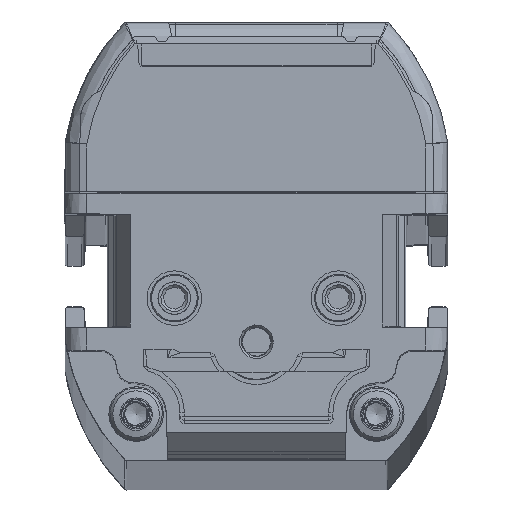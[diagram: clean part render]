
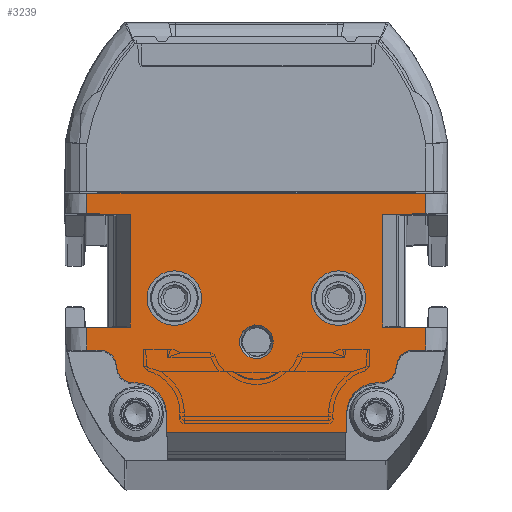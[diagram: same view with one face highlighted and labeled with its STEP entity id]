
A CAD part, top view. The second image highlights one B-rep face of the part: STEP entity #3239.
In plain terms, the highlighted planar face has unit normal (0, 0, 1).
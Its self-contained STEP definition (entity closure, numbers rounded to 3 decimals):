
#1178=FACE_BOUND('',#5343,.T.);
#1179=FACE_BOUND('',#5344,.T.);
#1180=FACE_BOUND('',#5345,.T.);
#1181=FACE_BOUND('',#5346,.T.);
#1900=CIRCLE('',#17502,2.5);
#1901=CIRCLE('',#17504,2.5);
#1902=CIRCLE('',#17506,1.55);
#1905=CIRCLE('',#17576,1.5);
#1906=CIRCLE('',#17577,1.5);
#1907=CIRCLE('',#17578,1.5);
#1908=CIRCLE('',#17579,1.5);
#1909=CIRCLE('',#17580,2.75);
#1910=CIRCLE('',#17581,2.75);
#3239=ADVANCED_FACE('',(#1178,#1179,#1180,#1181),#3754,.T.);
#3754=PLANE('',#17582);
#5343=EDGE_LOOP('',(#9281));
#5344=EDGE_LOOP('',(#9282));
#5345=EDGE_LOOP('',(#9283));
#5346=EDGE_LOOP('',(#9284,#9285,#9286,#9287,#9288,#9289,#9290,#9291,#9292,
#9293,#9294,#9295,#9296,#9297,#9298,#9299,#9300,#9301,#9302,#9303,#9304,
#9305,#9306,#9307,#9308,#9309));
#9281=ORIENTED_EDGE('',*,*,#13579,.T.);
#9282=ORIENTED_EDGE('',*,*,#13578,.F.);
#9283=ORIENTED_EDGE('',*,*,#13577,.F.);
#9284=ORIENTED_EDGE('',*,*,#13699,.F.);
#9285=ORIENTED_EDGE('',*,*,#13700,.T.);
#9286=ORIENTED_EDGE('',*,*,#13701,.T.);
#9287=ORIENTED_EDGE('',*,*,#13702,.T.);
#9288=ORIENTED_EDGE('',*,*,#13630,.T.);
#9289=ORIENTED_EDGE('',*,*,#13576,.T.);
#9290=ORIENTED_EDGE('',*,*,#13573,.T.);
#9291=ORIENTED_EDGE('',*,*,#13572,.T.);
#9292=ORIENTED_EDGE('',*,*,#13698,.T.);
#9293=ORIENTED_EDGE('',*,*,#13703,.F.);
#9294=ORIENTED_EDGE('',*,*,#13704,.F.);
#9295=ORIENTED_EDGE('',*,*,#13705,.F.);
#9296=ORIENTED_EDGE('',*,*,#13692,.T.);
#9297=ORIENTED_EDGE('',*,*,#13568,.F.);
#9298=ORIENTED_EDGE('',*,*,#13564,.T.);
#9299=ORIENTED_EDGE('',*,*,#13563,.F.);
#9300=ORIENTED_EDGE('',*,*,#13603,.T.);
#9301=ORIENTED_EDGE('',*,*,#13706,.F.);
#9302=ORIENTED_EDGE('',*,*,#13707,.T.);
#9303=ORIENTED_EDGE('',*,*,#13708,.T.);
#9304=ORIENTED_EDGE('',*,*,#13709,.F.);
#9305=ORIENTED_EDGE('',*,*,#13710,.F.);
#9306=ORIENTED_EDGE('',*,*,#13711,.F.);
#9307=ORIENTED_EDGE('',*,*,#13611,.T.);
#9308=ORIENTED_EDGE('',*,*,#13712,.F.);
#9309=ORIENTED_EDGE('',*,*,#13713,.F.);
#11499=VERTEX_POINT('',#29891);
#11500=VERTEX_POINT('',#29893);
#11501=VERTEX_POINT('',#29897);
#11502=VERTEX_POINT('',#29901);
#11504=VERTEX_POINT('',#29907);
#11506=VERTEX_POINT('',#29911);
#11507=VERTEX_POINT('',#29915);
#11508=VERTEX_POINT('',#29919);
#11509=VERTEX_POINT('',#29923);
#11510=VERTEX_POINT('',#29926);
#11511=VERTEX_POINT('',#29929);
#11528=VERTEX_POINT('',#30023);
#11533=VERTEX_POINT('',#30037);
#11534=VERTEX_POINT('',#30039);
#11547=VERTEX_POINT('',#30079);
#11581=VERTEX_POINT('',#30332);
#11585=VERTEX_POINT('',#30342);
#11586=VERTEX_POINT('',#30346);
#11587=VERTEX_POINT('',#30347);
#11588=VERTEX_POINT('',#30349);
#11589=VERTEX_POINT('',#30351);
#11590=VERTEX_POINT('',#30354);
#11591=VERTEX_POINT('',#30356);
#11592=VERTEX_POINT('',#30359);
#11593=VERTEX_POINT('',#30361);
#11594=VERTEX_POINT('',#30363);
#11595=VERTEX_POINT('',#30365);
#11596=VERTEX_POINT('',#30367);
#11597=VERTEX_POINT('',#30370);
#13563=EDGE_CURVE('',#11500,#11499,#15088,.T.);
#13564=EDGE_CURVE('',#11501,#11499,#15089,.T.);
#13568=EDGE_CURVE('',#11501,#11502,#15092,.T.);
#13572=EDGE_CURVE('',#11504,#11506,#15095,.T.);
#13573=EDGE_CURVE('',#11507,#11504,#15096,.T.);
#13576=EDGE_CURVE('',#11508,#11507,#15098,.T.);
#13577=EDGE_CURVE('',#11509,#11509,#1900,.T.);
#13578=EDGE_CURVE('',#11510,#11510,#1901,.T.);
#13579=EDGE_CURVE('',#11511,#11511,#1902,.T.);
#13603=EDGE_CURVE('',#11500,#11528,#15113,.T.);
#13611=EDGE_CURVE('',#11533,#11534,#15119,.T.);
#13630=EDGE_CURVE('',#11547,#11508,#15132,.T.);
#13692=EDGE_CURVE('',#11581,#11502,#15175,.T.);
#13698=EDGE_CURVE('',#11506,#11585,#15177,.T.);
#13699=EDGE_CURVE('',#11586,#11587,#15178,.T.);
#13700=EDGE_CURVE('',#11586,#11588,#1905,.T.);
#13701=EDGE_CURVE('',#11588,#11589,#1906,.T.);
#13702=EDGE_CURVE('',#11589,#11547,#15179,.T.);
#13703=EDGE_CURVE('',#11590,#11585,#15180,.T.);
#13704=EDGE_CURVE('',#11591,#11590,#15181,.T.);
#13705=EDGE_CURVE('',#11581,#11591,#15182,.T.);
#13706=EDGE_CURVE('',#11592,#11528,#15183,.T.);
#13707=EDGE_CURVE('',#11592,#11593,#1907,.T.);
#13708=EDGE_CURVE('',#11593,#11594,#1908,.T.);
#13709=EDGE_CURVE('',#11595,#11594,#15184,.T.);
#13710=EDGE_CURVE('',#11596,#11595,#1909,.T.);
#13711=EDGE_CURVE('',#11533,#11596,#15185,.T.);
#13712=EDGE_CURVE('',#11597,#11534,#15186,.T.);
#13713=EDGE_CURVE('',#11587,#11597,#1910,.T.);
#15088=LINE('',#29894,#16251);
#15089=LINE('',#29896,#16252);
#15092=LINE('',#29904,#16255);
#15095=LINE('',#29912,#16258);
#15096=LINE('',#29914,#16259);
#15098=LINE('',#29920,#16261);
#15113=LINE('',#30024,#16276);
#15119=LINE('',#30040,#16282);
#15132=LINE('',#30078,#16295);
#15175=LINE('',#30331,#16338);
#15177=LINE('',#30343,#16340);
#15178=LINE('',#30345,#16341);
#15179=LINE('',#30352,#16342);
#15180=LINE('',#30353,#16343);
#15181=LINE('',#30355,#16344);
#15182=LINE('',#30357,#16345);
#15183=LINE('',#30358,#16346);
#15184=LINE('',#30364,#16347);
#15185=LINE('',#30368,#16348);
#15186=LINE('',#30369,#16349);
#16251=VECTOR('',#20699,1.);
#16252=VECTOR('',#20702,1.);
#16255=VECTOR('',#20709,1.);
#16258=VECTOR('',#20716,1.);
#16259=VECTOR('',#20719,1.);
#16261=VECTOR('',#20725,1.);
#16276=VECTOR('',#20776,1.);
#16282=VECTOR('',#20790,1.);
#16295=VECTOR('',#20829,1.);
#16338=VECTOR('',#20940,1.);
#16340=VECTOR('',#20952,1.);
#16341=VECTOR('',#20955,1.);
#16342=VECTOR('',#20960,1.);
#16343=VECTOR('',#20961,1.);
#16344=VECTOR('',#20962,1.);
#16345=VECTOR('',#20963,1.);
#16346=VECTOR('',#20964,1.);
#16347=VECTOR('',#20969,1.);
#16348=VECTOR('',#20972,1.);
#16349=VECTOR('',#20973,1.);
#17502=AXIS2_PLACEMENT_3D('',#29922,#20728,#20729);
#17504=AXIS2_PLACEMENT_3D('',#29925,#20732,#20733);
#17506=AXIS2_PLACEMENT_3D('',#29928,#20736,#20737);
#17576=AXIS2_PLACEMENT_3D('',#30348,#20956,#20957);
#17577=AXIS2_PLACEMENT_3D('',#30350,#20958,#20959);
#17578=AXIS2_PLACEMENT_3D('',#30360,#20965,#20966);
#17579=AXIS2_PLACEMENT_3D('',#30362,#20967,#20968);
#17580=AXIS2_PLACEMENT_3D('',#30366,#20970,#20971);
#17581=AXIS2_PLACEMENT_3D('',#30371,#20974,#20975);
#17582=AXIS2_PLACEMENT_3D('',#30372,#20976,#20977);
#20699=DIRECTION('',(1.,0.017,0.));
#20702=DIRECTION('',(0.,-1.,0.));
#20709=DIRECTION('',(-1.,0.017,0.));
#20716=DIRECTION('',(1.,0.017,0.));
#20719=DIRECTION('',(0.,1.,0.));
#20725=DIRECTION('',(-1.,0.017,0.));
#20728=DIRECTION('',(0.,0.,1.));
#20729=DIRECTION('',(1.,0.,0.));
#20732=DIRECTION('',(0.,0.,1.));
#20733=DIRECTION('',(1.,0.,0.));
#20736=DIRECTION('',(0.,0.,-1.));
#20737=DIRECTION('',(1.,0.,0.));
#20776=DIRECTION('',(0.,-1.,0.));
#20790=DIRECTION('',(1.,0.,0.));
#20829=DIRECTION('',(0.,1.,0.));
#20940=DIRECTION('',(0.,-1.,0.));
#20952=DIRECTION('',(0.,1.,0.));
#20955=DIRECTION('',(-1.,0.,0.));
#20956=DIRECTION('',(0.,0.,1.));
#20957=DIRECTION('',(1.,0.,0.));
#20958=DIRECTION('',(0.,0.,-1.));
#20959=DIRECTION('',(1.,0.,0.));
#20960=DIRECTION('',(1.,0.,0.));
#20961=DIRECTION('',(1.,-0.017,0.));
#20962=DIRECTION('',(1.,0.,0.));
#20963=DIRECTION('',(1.,0.017,0.));
#20964=DIRECTION('',(-1.,0.,0.));
#20965=DIRECTION('',(0.,0.,-1.));
#20966=DIRECTION('',(1.,0.,0.));
#20967=DIRECTION('',(0.,0.,1.));
#20968=DIRECTION('',(1.,0.,0.));
#20969=DIRECTION('',(-1.,0.,0.));
#20970=DIRECTION('',(0.,0.,1.));
#20971=DIRECTION('',(1.,0.,0.));
#20972=DIRECTION('',(-0.035,0.999,0.));
#20973=DIRECTION('',(-0.035,-0.999,0.));
#20974=DIRECTION('',(0.,0.,1.));
#20975=DIRECTION('',(1.,0.,0.));
#20976=DIRECTION('',(0.,0.,1.));
#20977=DIRECTION('',(1.,0.,0.));
#29891=CARTESIAN_POINT('',(-11.55,12.107,1599.));
#29893=CARTESIAN_POINT('',(-15.5,12.038,1599.));
#29894=CARTESIAN_POINT('',(-17.709,11.999,1599.));
#29896=CARTESIAN_POINT('',(-11.55,0.,1599.));
#29897=CARTESIAN_POINT('',(-11.55,22.393,1599.));
#29901=CARTESIAN_POINT('',(-15.5,22.462,1599.));
#29904=CARTESIAN_POINT('',(-17.107,22.49,1599.));
#29907=CARTESIAN_POINT('',(11.55,22.393,1599.));
#29911=CARTESIAN_POINT('',(15.5,22.462,1599.));
#29912=CARTESIAN_POINT('',(-17.882,21.88,1599.));
#29914=CARTESIAN_POINT('',(11.55,0.,1599.));
#29915=CARTESIAN_POINT('',(11.55,12.107,1599.));
#29919=CARTESIAN_POINT('',(15.5,12.038,1599.));
#29920=CARTESIAN_POINT('',(-17.28,12.61,1599.));
#29922=CARTESIAN_POINT('',(-7.5,14.75,1599.));
#29923=CARTESIAN_POINT('',(-5.,14.75,1599.));
#29925=CARTESIAN_POINT('',(7.5,14.75,1599.));
#29926=CARTESIAN_POINT('',(10.,14.75,1599.));
#29928=CARTESIAN_POINT('',(0.,10.75,1599.));
#29929=CARTESIAN_POINT('',(1.55,10.75,1599.));
#30023=CARTESIAN_POINT('',(-15.5,10.,1599.));
#30024=CARTESIAN_POINT('',(-15.5,0.,1599.));
#30037=CARTESIAN_POINT('',(-8.189,2.5,1599.));
#30039=CARTESIAN_POINT('',(8.189,2.5,1599.));
#30040=CARTESIAN_POINT('',(-17.5,2.5,1599.));
#30078=CARTESIAN_POINT('',(15.5,0.,1599.));
#30079=CARTESIAN_POINT('',(15.5,10.,1599.));
#30331=CARTESIAN_POINT('',(-15.5,0.,1599.));
#30332=CARTESIAN_POINT('',(-15.5,24.317,1599.));
#30342=CARTESIAN_POINT('',(15.5,24.317,1599.));
#30343=CARTESIAN_POINT('',(15.5,0.,1599.));
#30345=CARTESIAN_POINT('',(23.25,7.,1599.));
#30346=CARTESIAN_POINT('',(11.3,7.,1599.));
#30347=CARTESIAN_POINT('',(11.002,7.,1599.));
#30348=CARTESIAN_POINT('',(11.3,8.5,1599.));
#30349=CARTESIAN_POINT('',(12.8,8.5,1599.));
#30350=CARTESIAN_POINT('',(14.3,8.5,1599.));
#30351=CARTESIAN_POINT('',(14.3,10.,1599.));
#30352=CARTESIAN_POINT('',(-17.5,10.,1599.));
#30353=CARTESIAN_POINT('',(-17.066,24.886,1599.));
#30354=CARTESIAN_POINT('',(13.025,24.36,1599.));
#30355=CARTESIAN_POINT('',(-17.5,24.36,1599.));
#30356=CARTESIAN_POINT('',(-13.025,24.36,1599.));
#30357=CARTESIAN_POINT('',(-17.924,24.275,1599.));
#30358=CARTESIAN_POINT('',(-17.5,10.,1599.));
#30359=CARTESIAN_POINT('',(-14.3,10.,1599.));
#30360=CARTESIAN_POINT('',(-14.3,8.5,1599.));
#30361=CARTESIAN_POINT('',(-12.8,8.5,1599.));
#30362=CARTESIAN_POINT('',(-11.3,8.5,1599.));
#30363=CARTESIAN_POINT('',(-11.3,7.,1599.));
#30364=CARTESIAN_POINT('',(-11.,7.,1599.));
#30365=CARTESIAN_POINT('',(-11.002,7.,1599.));
#30366=CARTESIAN_POINT('',(-11.002,4.25,1599.));
#30367=CARTESIAN_POINT('',(-8.253,4.346,1599.));
#30368=CARTESIAN_POINT('',(-8.25,4.25,1599.));
#30369=CARTESIAN_POINT('',(8.25,4.25,1599.));
#30370=CARTESIAN_POINT('',(8.253,4.346,1599.));
#30371=CARTESIAN_POINT('',(11.002,4.25,1599.));
#30372=CARTESIAN_POINT('',(-17.5,0.,1599.));
